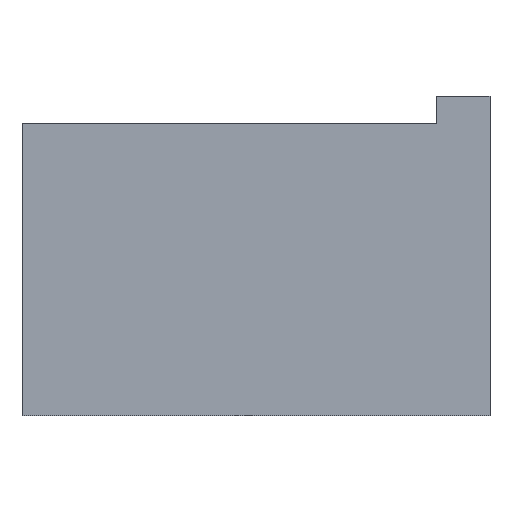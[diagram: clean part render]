
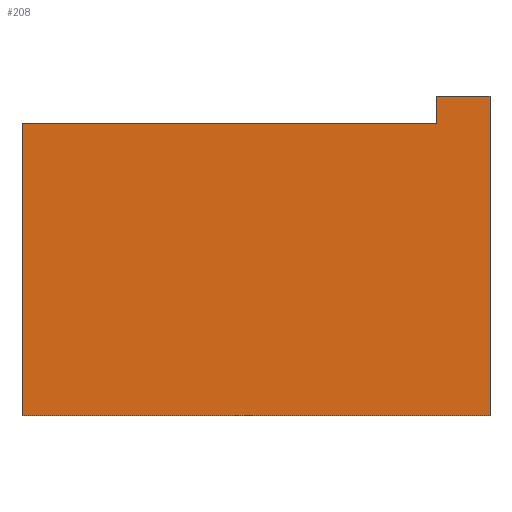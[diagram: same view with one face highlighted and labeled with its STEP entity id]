
A CAD part, front view. The second image highlights one B-rep face of the part: STEP entity #208.
In plain terms, the highlighted planar face has unit normal (0, -1, 0).
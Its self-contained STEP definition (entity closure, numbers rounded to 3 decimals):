
#137=FACE_OUTER_BOUND('',#560,.T.);
#208=ADVANCED_FACE('',(#137),#282,.T.);
#282=PLANE('',#1323);
#298=LINE('',#1796,#356);
#306=LINE('',#1812,#364);
#313=LINE('',#1830,#371);
#324=LINE('',#1882,#382);
#347=LINE('',#2000,#405);
#348=LINE('',#2002,#406);
#356=VECTOR('',#1442,1.);
#364=VECTOR('',#1452,1.);
#371=VECTOR('',#1465,1.);
#382=VECTOR('',#1508,1.);
#405=VECTOR('',#1565,1.);
#406=VECTOR('',#1568,1.);
#560=EDGE_LOOP('',(#765,#766,#767,#768,#769,#770));
#765=ORIENTED_EDGE('',*,*,#1107,.F.);
#766=ORIENTED_EDGE('',*,*,#1064,.T.);
#767=ORIENTED_EDGE('',*,*,#1072,.T.);
#768=ORIENTED_EDGE('',*,*,#1081,.F.);
#769=ORIENTED_EDGE('',*,*,#1146,.F.);
#770=ORIENTED_EDGE('',*,*,#1147,.F.);
#948=VERTEX_POINT('',#1795);
#949=VERTEX_POINT('',#1797);
#955=VERTEX_POINT('',#1811);
#963=VERTEX_POINT('',#1829);
#975=VERTEX_POINT('',#1855);
#1018=VERTEX_POINT('',#1999);
#1064=EDGE_CURVE('',#949,#948,#298,.T.);
#1072=EDGE_CURVE('',#948,#955,#306,.T.);
#1081=EDGE_CURVE('',#963,#955,#313,.T.);
#1107=EDGE_CURVE('',#949,#975,#324,.T.);
#1146=EDGE_CURVE('',#1018,#963,#347,.T.);
#1147=EDGE_CURVE('',#975,#1018,#348,.T.);
#1323=AXIS2_PLACEMENT_3D('',#2003,#1569,#1570);
#1442=DIRECTION('',(0.,0.,-1.));
#1452=DIRECTION('',(1.,0.,0.));
#1465=DIRECTION('',(0.,0.,-1.));
#1508=DIRECTION('',(1.,0.,0.));
#1565=DIRECTION('',(1.,0.,0.));
#1568=DIRECTION('',(0.,0.,1.));
#1569=DIRECTION('',(0.,-1.,0.));
#1570=DIRECTION('',(0.,0.,-1.));
#1795=CARTESIAN_POINT('',(-88.,-35.,-30.));
#1796=CARTESIAN_POINT('',(-88.,-35.,30.));
#1797=CARTESIAN_POINT('',(-88.,-35.,25.));
#1811=CARTESIAN_POINT('',(0.,-35.,-30.));
#1812=CARTESIAN_POINT('',(-88.,-35.,-30.));
#1829=CARTESIAN_POINT('',(0.,-35.,30.));
#1830=CARTESIAN_POINT('',(0.,-35.,30.));
#1855=CARTESIAN_POINT('',(-10.,-35.,25.));
#1882=CARTESIAN_POINT('',(0.,-35.,25.));
#1999=CARTESIAN_POINT('',(-10.,-35.,30.));
#2000=CARTESIAN_POINT('',(-88.,-35.,30.));
#2002=CARTESIAN_POINT('',(-10.,-35.,10.));
#2003=CARTESIAN_POINT('',(-88.,-35.,30.));
